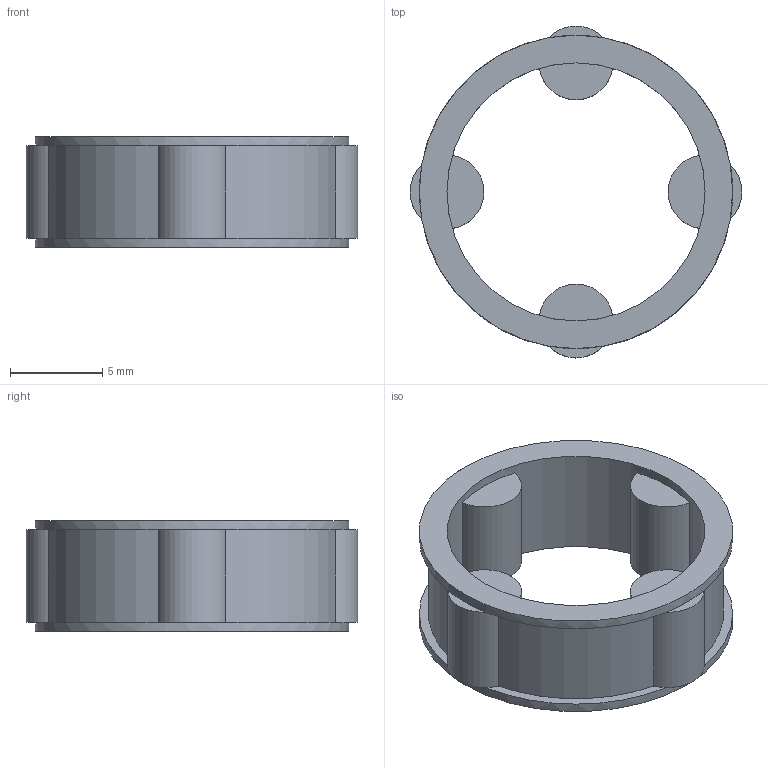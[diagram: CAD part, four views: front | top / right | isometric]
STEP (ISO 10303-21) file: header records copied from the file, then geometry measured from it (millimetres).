
FILE_DESCRIPTION(/* description */ (''),/* implementation_level */ '2;1');
FILE_NAME(/* name */ '303111 RL 418 - 4.stp',/* time_stamp */ '2016-11-10T14:45:07+01:00',/* author */ (''),/* organization */ (''),/* preprocessor_version */ 'ST-DEVELOPER v15',/* originating_system */ 'SIEMENS PLM Software NX 8.5',/* authorisation */ '');
FILE_SCHEMA (('CONFIG_CONTROL_DESIGN'));
Length unit declared in the file: millimetre
Products named in the file (1): ATE0000098_01
Bounding box: 18 x 18 x 6 mm (x, y, z)
Volume: 480.6 mm3; surface area: 861.4 mm2
Topology: 1 solids, 1 shells, 41 faces, 92 edges, 56 vertices
Faces by surface type: plane 26, cylinder 15
Full cylindrical faces by diameter (mm): 14 x1, 17 x2
Entity records: 1198 total; most frequent: DIRECTION 236, CARTESIAN_POINT 178, ORIENTED_EDGE 168, AXIS2_PLACEMENT_3D 110, EDGE_CURVE 84, CIRCLE 68, VERTEX_POINT 52, EDGE_LOOP 50
